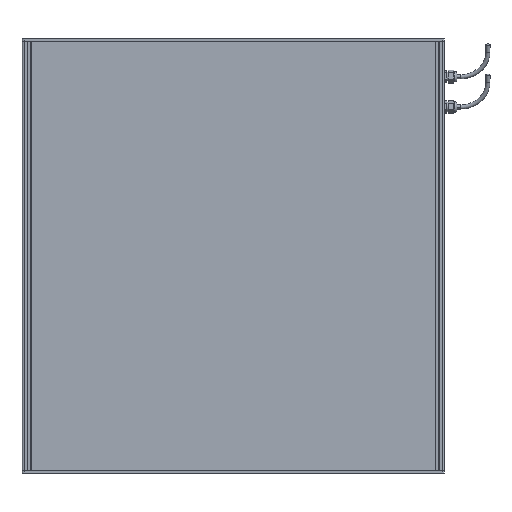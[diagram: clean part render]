
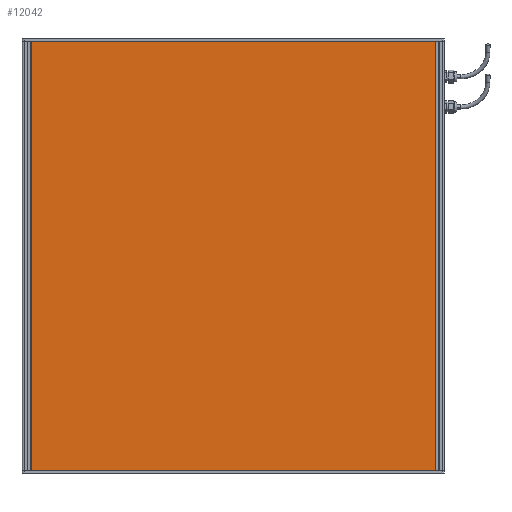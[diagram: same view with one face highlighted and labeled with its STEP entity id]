
A CAD part, front view. The second image highlights one B-rep face of the part: STEP entity #12042.
In plain terms, the highlighted planar face has unit normal (0, -1, 0) as drawn and (0, 0, 1) by its records, which use the part's own axes.
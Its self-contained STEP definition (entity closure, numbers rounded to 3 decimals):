
#349 = LINE ( 'NONE', #5397, #14807 ) ;
#387 = DIRECTION ( 'NONE',  ( 0., 0., -1. ) ) ;
#428 = DIRECTION ( 'NONE',  ( 0., -1., 0. ) ) ;
#468 = PLANE ( 'NONE',  #14056 ) ;
#665 = CARTESIAN_POINT ( 'NONE',  ( -9., 0., 0. ) ) ;
#1266 = EDGE_CURVE ( 'NONE', #11662, #10852, #14310, .T. ) ;
#1503 = CARTESIAN_POINT ( 'NONE',  ( -9., 0., 0. ) ) ;
#1568 = DIRECTION ( 'NONE',  ( 1., 0., 0. ) ) ;
#2822 = DIRECTION ( 'NONE',  ( -1., 0., 0. ) ) ;
#2961 = ORIENTED_EDGE ( 'NONE', *, *, #4372, .T. ) ;
#3354 = VECTOR ( 'NONE', #10656, 1000. ) ;
#4145 = CARTESIAN_POINT ( 'NONE',  ( 0., 0., 0. ) ) ;
#4372 = EDGE_CURVE ( 'NONE', #10852, #6232, #5392, .T. ) ;
#5027 = CARTESIAN_POINT ( 'NONE',  ( -9., -850., 0. ) ) ;
#5392 = LINE ( 'NONE', #665, #3354 ) ;
#5397 = CARTESIAN_POINT ( 'NONE',  ( -809., 0., 0. ) ) ;
#6138 = ORIENTED_EDGE ( 'NONE', *, *, #11382, .T. ) ;
#6173 = EDGE_CURVE ( 'NONE', #6232, #10914, #12471, .T. ) ;
#6232 = VERTEX_POINT ( 'NONE', #15724 ) ;
#6564 = CARTESIAN_POINT ( 'NONE',  ( -809., 0., 0. ) ) ;
#8600 = EDGE_LOOP ( 'NONE', ( #2961, #8706, #6138, #11911 ) ) ;
#8706 = ORIENTED_EDGE ( 'NONE', *, *, #6173, .T. ) ;
#9932 = VECTOR ( 'NONE', #1568, 1000. ) ;
#10315 = DIRECTION ( 'NONE',  ( -1., 0., 0. ) ) ;
#10656 = DIRECTION ( 'NONE',  ( 0., 1., 0. ) ) ;
#10852 = VERTEX_POINT ( 'NONE', #5027 ) ;
#10914 = VERTEX_POINT ( 'NONE', #6564 ) ;
#11382 = EDGE_CURVE ( 'NONE', #10914, #11662, #349, .T. ) ;
#11662 = VERTEX_POINT ( 'NONE', #15216 ) ;
#11911 = ORIENTED_EDGE ( 'NONE', *, *, #1266, .T. ) ;
#12042 = ADVANCED_FACE ( 'NONE', ( #14062 ), #468, .F. ) ;
#12471 = LINE ( 'NONE', #1503, #13382 ) ;
#13382 = VECTOR ( 'NONE', #2822, 1000. ) ;
#14056 = AXIS2_PLACEMENT_3D ( 'NONE', #4145, #387, #10315 ) ;
#14062 = FACE_OUTER_BOUND ( 'NONE', #8600, .T. ) ;
#14310 = LINE ( 'NONE', #14379, #9932 ) ;
#14379 = CARTESIAN_POINT ( 'NONE',  ( -9., -850., 0. ) ) ;
#14807 = VECTOR ( 'NONE', #428, 1000. ) ;
#15216 = CARTESIAN_POINT ( 'NONE',  ( -809., -850., 0. ) ) ;
#15724 = CARTESIAN_POINT ( 'NONE',  ( -9., 0., 0. ) ) ;
